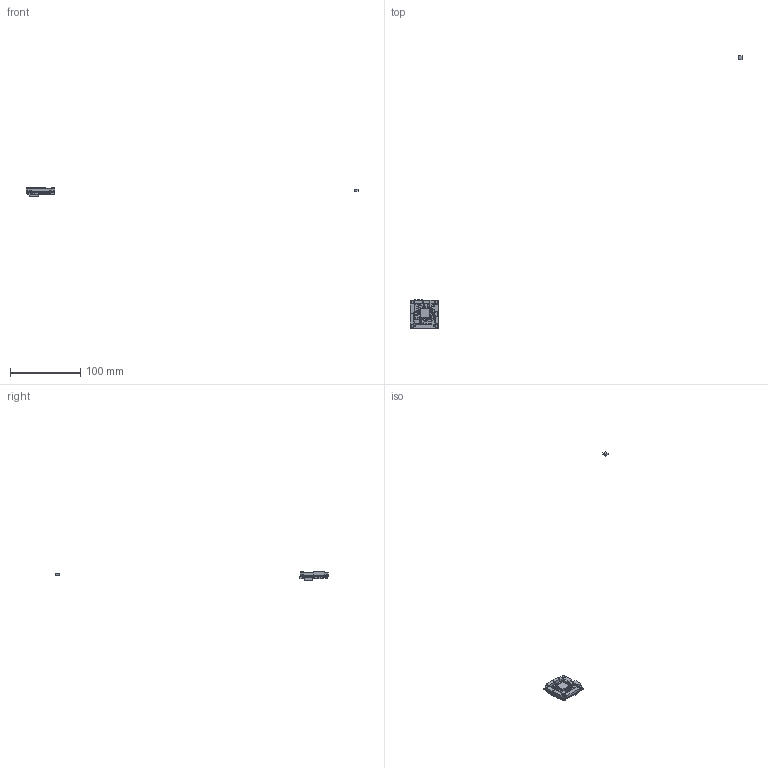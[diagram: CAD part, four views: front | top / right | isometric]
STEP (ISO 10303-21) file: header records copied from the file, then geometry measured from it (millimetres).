
FILE_DESCRIPTION(/* description */ ('PCB Design'),/* implementation_level */ '2;1');
FILE_NAME(/* name */ 'RV1106G_IPC38_V2-20240820',/* time_stamp */ '2024-08-23T23:53:34+08:00',/* author */ ('caoweiwei'),/* organization */ (''),/* preprocessor_version */ 'ST-DEVELOPER v15',/* originating_system */ 'allegro_16.6-2015S112',/* authorisation */ '');
FILE_SCHEMA (('AUTOMOTIVE_DESIGN'));
Length unit declared in the file: millimetre
Products named in the file (58): RV1106G_IPC38_V2-20240820; BOARD; COMPONENTS; SMT_1M25_3_LS; SMT_1M25_9_OS; SMT_1MM_2_OS; SW-2X4X3-5; MARK1_0; SR0603; SOD_123; SMAF; SO-8_L4_9-W3_9-P1_27-LS5_9-BL; HOLE_C2R00_C3R50; SMBF; SR0402; SC0402; SL0805; SC0805; C1206; SOD323; IPEX_4MM_3MM; SMT_1MM_3_LS; SOT_23_6; SMT_1M25_5_LS; SOP-8_150MIL; SMT_1M25_8_LS; MS10232; FPC_0M5_16_OS; FPC_0M5_40_OS; SKI-WB800D80S-QFN44; DFN1006-2LO; FUSE1812; SMT_1M25_4_LS; SMT_2MM_2_LS; IND_252010; IND_404018; WSON8_8R00X6R00X0R80_T-1; SOD_523; CRY4_2R50X2R00X0R80; SOT_23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
Assembly tree (263 placements, depth 3):
  RV1106G_IPC38_V2-20240820
    BOARD
    COMPONENTS
      SMT_1M25_3_LS
      SMT_1M25_9_OS
      SMT_1MM_2_OS  x2
      SW-2X4X3-5  x2
      MARK1_0  x4
      SR0603  x3
      SOD_123
      SMAF  x2
      SO-8_L4_9-W3_9-P1_27-LS5_9-BL
      HOLE_C2R00_C3R50  x4
      SMBF  x3
      SR0402  x3
      SC0402  x2
      SL0805
      SC0805  x2
      C1206
      SOD323  x2
      IPEX_4MM_3MM  x2
      SMT_1MM_3_LS
      SOT_23_6
      SMT_1M25_5_LS
      SOP-8_150MIL
      SMT_1M25_8_LS
      MS10232
      FPC_0M5_16_OS  x2
      FPC_0M5_40_OS
      SKI-WB800D80S-QFN44
      DFN1006-2LO  x3
      FUSE1812
      SMT_1M25_4_LS
      SMT_2MM_2_LS
      IND_252010
      IND_404018
      WSON8_8R00X6R00X0R80_T-1
      SOD_523  x5
      CRY4_2R50X2R00X0R80
      SOT_23  x2
      TF-CKT01-009D
      C0603  x5
      LED0402  x2
      SON10_2R50X1R00X0R50  x2
      XTAL2-3_3X1_6H1_0
      SR0201  x30
      R0402  x9
      R0201  x35
      IND_2016  x3
      L0402  x2
      SC0603  x11
      SC0201  x21
      C0402  x18
      C0201  x51
      SOT_23_5  x3
      QFN20_3R00X3R00X0R85_T
      QFN128_12R3X12R3X0R90_T
      BGA153_13R10X11R60X1R00_2L
Bounding box: 472.29 x 387.72 x 12.64 mm (x, y, z)
Surface area: 13483.4 mm2 (no closed solid volume)
Topology: 0 solids, 262 shells, 1624 faces, 3572 edges, 2200 vertices
Faces by surface type: plane 1592, cylinder 32
Entity records: 13109 total; most frequent: ORIENTED_EDGE 1620, DIRECTION 1593, CARTESIAN_POINT 1012, AXIS2_PLACEMENT_3D 960, EDGE_CURVE 876, VECTOR 824, LINE 824, VERTEX_POINT 672
